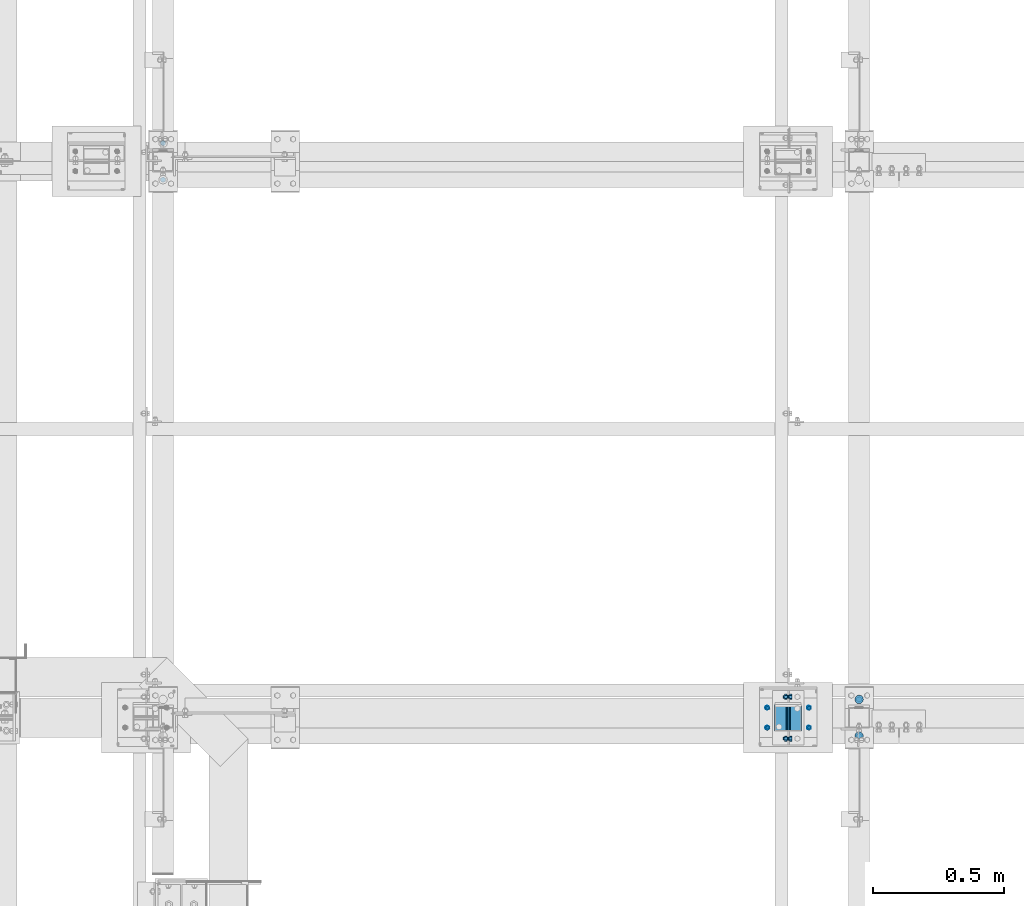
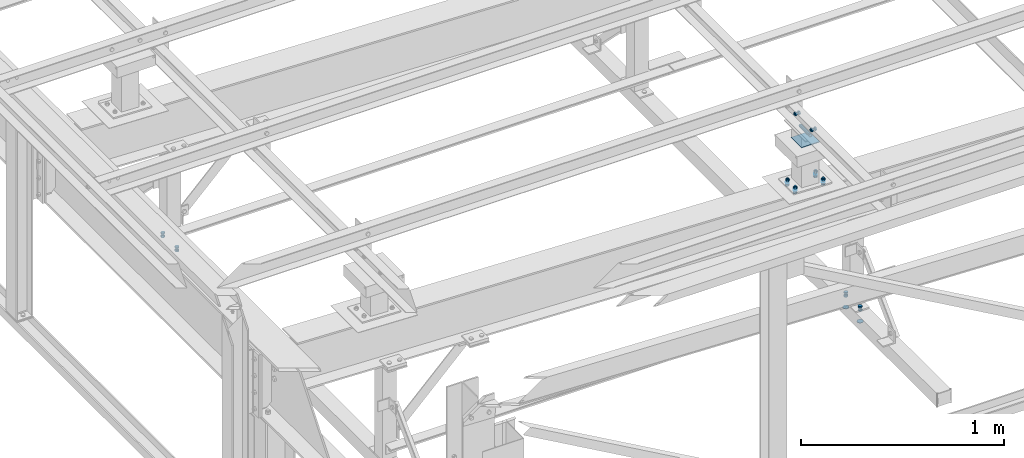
# One storey, part 6 of 3134: 8 mechanical fasteners, 5 elements without a shape of their own.
"""IFC2X3 building model written with IfcOpenShell, lengths in millimetres."""

from ifc_helpers import new_model, si_unit, frame, origin_with_axes, place, context, subcontext, project, spatial, faceted_brep, source, transform, mapped, material, type_object, element, aggregate, save


model = new_model("IFC2X3")

# Units and contexts
model_context = context("Model", 3, precision=1e-05, world=origin_with_axes())
body_context = subcontext(model_context, "Body", "Model", "MODEL_VIEW")
ifc_project = project(units=[si_unit("LENGTHUNIT", "METRE", prefix="MILLI"), si_unit("AREAUNIT", "SQUARE_METRE"), si_unit("VOLUMEUNIT", "CUBIC_METRE"), si_unit("MASSUNIT", "GRAM", prefix="KILO"), si_unit("TIMEUNIT", "SECOND"), si_unit("PLANEANGLEUNIT", "RADIAN"), si_unit("SOLIDANGLEUNIT", "STERADIAN"), si_unit("THERMODYNAMICTEMPERATUREUNIT", "DEGREE_CELSIUS"), si_unit("LUMINOUSINTENSITYUNIT", "LUMEN")], contexts=[model_context])

# Site, building, storey
site_placement = place(None, origin_with_axes())
site = spatial("IfcSite", under=ifc_project, at=site_placement, CompositionType="ELEMENT")
building_placement = place(site_placement, origin_with_axes())
building = spatial("IfcBuilding", under=site, at=building_placement, Name="Undefined", CompositionType="ELEMENT")
storey_placement = place(building_placement, origin_with_axes())
storey = spatial("IfcBuildingStorey", under=building, at=storey_placement, Name="Undefined", CompositionType="ELEMENT", Elevation=0.0)

# Assembly, mechanical fastener
assembly_1_placement = place(storey_placement, origin_with_axes())
assembly_1 = element("IfcElementAssembly", 1, at=assembly_1_placement, inside=storey, AssemblyPlace="NOTDEFINED", PredefinedType="RIGID_FRAME")
ifc_material_1 = material(Name="8.8")
mechanical_fastener_type = type_object("IfcMechanicalFastenerType", Name="Bolt assembly")
shared_shape_1 = source(origin_with_axes(), body_context, "Body", "Brep", [
    faceted_brep([(16.5, -3.0, 0.0), (14.289419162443, -3.0, 8.25000000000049), (8.24999999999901, -3.0, 14.2894191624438), (-1.70995436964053e-12, -3.0, 16.5), (-8.25000000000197, -3.0, 14.2894191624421), (-14.2894191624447, -3.0, 8.24999999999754), (-16.5, -3.0, -3.41990873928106e-12), (-14.2894191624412, -3.0, -8.25000000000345), (-8.24999999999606, -3.0, -14.2894191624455), (5.11154442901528e-12, -3.0, -16.5), (8.25000000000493, -3.0, -14.2894191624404), (14.2894191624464, -3.0, -8.24999999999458), (14.2894191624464, 0.1, -8.24999999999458), (8.25000000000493, 0.1, -14.2894191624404), (5.11154442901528e-12, 0.1, -16.5), (-8.24999999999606, 0.1, -14.2894191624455), (-14.2894191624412, 0.1, -8.25000000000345), (-16.5, 0.1, -3.41990873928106e-12), (-14.2894191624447, 0.1, 8.24999999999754), (-8.25000000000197, 0.1, 14.2894191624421), (-1.70995436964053e-12, 0.1, 16.5), (8.24999999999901, 0.1, 14.2894191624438), (14.289419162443, 0.1, 8.25000000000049), (16.5, 0.1, 0.0)], [[[0, 1, 2, 3, 4, 5, 6, 7, 8, 9, 10, 11]], [[12, 13, 14, 15, 16, 17, 18, 19, 20, 21, 22, 23]], [[0, 23, 22, 1]], [[1, 22, 21, 2]], [[2, 21, 20, 3]], [[3, 20, 19, 4]], [[4, 19, 18, 5]], [[5, 18, 17, 6]], [[6, 17, 16, 7]], [[7, 16, 15, 8]], [[8, 15, 14, 9]], [[9, 14, 13, 10]], [[10, 13, 12, 11]], [[11, 12, 23, 0]]]),
])
mechanical_fastener_1_placement = place(assembly_1_placement, frame((3315.0, 11000.0, 3040.0), z_axis=(1.0, 0.0, 0.0), x_axis=(0.0, -1.0, 0.0)))
mechanical_fastener_1 = element("IfcMechanicalFastener", 2, at=mechanical_fastener_1_placement, type_object=mechanical_fastener_type, material=ifc_material_1, Name="Bolt assembly", NominalDiameter=30.0, NominalLength=3.0, context=body_context, shape_type="MappedRepresentation", body=[
    mapped(shared_shape_1, transform((0.0, 0.0, 0.0))),
    mapped(shared_shape_1, transform((140.0, 0.0, 0.0))),
])

assembly_2_placement = place(storey_placement, origin_with_axes())
assembly_2 = element("IfcElementAssembly", 3, at=assembly_2_placement, inside=storey, AssemblyPlace="NOTDEFINED", PredefinedType="RIGID_FRAME")
shared_shape_2 = source(origin_with_axes(), body_context, "Body", "Brep", [
    faceted_brep([(10.9696551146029, -14.0, 0.0), (5.48482755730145, -14.0, 9.5), (-5.48482755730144, -14.0, 9.5), (-10.9696551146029, -14.0, 1.34339530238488e-15), (-5.48482755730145, -14.0, -9.5), (5.48482755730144, -14.0, -9.50000000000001), (5.48482755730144, -6.0, -9.50000000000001), (-5.48482755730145, -6.0, -9.5), (-10.9696551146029, -6.0, 1.34339530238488e-15), (-5.48482755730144, -6.0, 9.5), (5.48482755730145, -6.0, 9.5), (10.9696551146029, -6.0, 0.0), (6.0, -6.0, 0.0), (5.19615242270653, -6.0, 3.00000000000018), (2.99999999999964, -6.0, 5.19615242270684), (-6.21801588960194e-13, -6.0, 6.0), (-3.00000000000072, -6.0, 5.19615242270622), (-5.19615242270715, -6.0, 2.9999999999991), (-6.0, -6.0, -1.24360317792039e-12), (-5.19615242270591, -6.0, -3.00000000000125), (-2.99999999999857, -6.0, -5.19615242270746), (1.85874342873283e-12, -6.0, -6.0), (3.00000000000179, -6.0, -5.1961524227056), (5.19615242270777, -6.0, -2.99999999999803), (5.19615242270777, 19.0, -2.99999999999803), (3.00000000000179, 19.0, -5.1961524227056), (1.85874342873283e-12, 19.0, -6.0), (-2.99999999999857, 19.0, -5.19615242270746), (-5.19615242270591, 19.0, -3.00000000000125), (-6.0, 19.0, -1.24360317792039e-12), (-5.19615242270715, 19.0, 2.9999999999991), (-3.00000000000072, 19.0, 5.19615242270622), (-6.21801588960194e-13, 19.0, 6.0), (2.99999999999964, 19.0, 5.19615242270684), (5.19615242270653, 19.0, 3.00000000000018), (6.0, 19.0, 0.0), (10.9696551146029, 4.00000000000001, 0.0), (5.48482755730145, 4.00000000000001, 9.5), (-5.48482755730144, 4.00000000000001, 9.5), (-10.9696551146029, 4.00000000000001, 1.34339530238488e-15), (-5.48482755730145, 4.00000000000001, -9.5), (5.48482755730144, 4.00000000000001, -9.50000000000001), (5.48482755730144, 14.0, -9.50000000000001), (-5.48482755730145, 14.0, -9.5), (-10.9696551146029, 14.0, 1.34339530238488e-15), (-5.48482755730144, 14.0, 9.5), (5.48482755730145, 14.0, 9.5), (10.9696551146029, 14.0, 0.0)], [[[0, 1, 2, 3, 4, 5]], [[6, 7, 8, 9, 10, 11]], [[0, 11, 10, 1]], [[1, 10, 9, 2]], [[2, 9, 8, 3]], [[3, 8, 7, 4]], [[4, 7, 6, 5]], [[5, 6, 11, 0]], [[12, 13, 14, 15, 16, 17, 18, 19, 20, 21, 22, 23]], [[24, 25, 26, 27, 28, 29, 30, 31, 32, 33, 34, 35]], [[12, 35, 34, 13]], [[13, 34, 33, 14]], [[14, 33, 32, 15]], [[15, 32, 31, 16]], [[16, 31, 30, 17]], [[17, 30, 29, 18]], [[18, 29, 28, 19]], [[19, 28, 27, 20]], [[20, 27, 26, 21]], [[21, 26, 25, 22]], [[22, 25, 24, 23]], [[23, 24, 35, 12]], [[36, 37, 38, 39, 40, 41]], [[42, 43, 44, 45, 46, 47]], [[36, 47, 46, 37]], [[37, 46, 45, 38]], [[38, 45, 44, 39]], [[39, 44, 43, 40]], [[40, 43, 42, 41]], [[41, 42, 47, 36]]]),
    faceted_brep([(7.0, -0.1, 0.0), (6.06217782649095, -0.1, 3.50000000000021), (3.49999999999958, -0.1, 6.06217782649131), (-7.25435187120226e-13, -0.1, 7.0), (-3.50000000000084, -0.1, 6.06217782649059), (-6.06217782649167, -0.1, 3.49999999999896), (-7.0, -0.1, -1.45087037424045e-12), (-6.06217782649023, -0.1, -3.50000000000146), (-3.49999999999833, -0.1, -6.06217782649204), (2.1685340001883e-12, -0.1, -7.0), (3.50000000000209, -0.1, -6.06217782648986), (6.0621778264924, -0.1, -3.4999999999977), (6.0621778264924, 4.00000000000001, -3.4999999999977), (3.50000000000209, 4.00000000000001, -6.06217782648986), (2.1685340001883e-12, 4.00000000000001, -7.0), (-3.49999999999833, 4.00000000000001, -6.06217782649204), (-6.06217782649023, 4.00000000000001, -3.50000000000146), (-7.0, 4.00000000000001, -1.45087037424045e-12), (-6.06217782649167, 4.00000000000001, 3.49999999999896), (-3.50000000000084, 4.00000000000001, 6.06217782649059), (-7.25435187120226e-13, 4.00000000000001, 7.0), (3.49999999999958, 4.00000000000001, 6.06217782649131), (6.06217782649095, 4.00000000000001, 3.50000000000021), (7.0, 4.00000000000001, 0.0), (7.0, -5.9, 0.0), (6.06217782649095, -5.9, 3.50000000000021), (3.49999999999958, -5.9, 6.06217782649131), (-7.25435187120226e-13, -5.9, 7.0), (-3.50000000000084, -5.9, 6.06217782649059), (-6.06217782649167, -5.9, 3.49999999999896), (-7.0, -5.9, -1.45087037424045e-12), (-6.06217782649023, -5.9, -3.50000000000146), (-3.49999999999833, -5.9, -6.06217782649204), (2.1685340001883e-12, -5.9, -7.0), (3.50000000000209, -5.9, -6.06217782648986), (6.0621778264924, -5.9, -3.4999999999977), (6.0621778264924, 0.0999999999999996, -3.4999999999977), (3.50000000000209, 0.0999999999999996, -6.06217782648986), (2.1685340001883e-12, 0.0999999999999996, -7.0), (-3.49999999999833, 0.0999999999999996, -6.06217782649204), (-6.06217782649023, 0.0999999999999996, -3.50000000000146), (-7.0, 0.0999999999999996, -1.45087037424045e-12), (-6.06217782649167, 0.0999999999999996, 3.49999999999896), (-3.50000000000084, 0.0999999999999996, 6.06217782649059), (-7.25435187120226e-13, 0.0999999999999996, 7.0), (3.49999999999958, 0.0999999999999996, 6.06217782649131), (6.06217782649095, 0.0999999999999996, 3.50000000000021), (7.0, 0.0999999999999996, 0.0)], [[[0, 1, 2, 3, 4, 5, 6, 7, 8, 9, 10, 11]], [[12, 13, 14, 15, 16, 17, 18, 19, 20, 21, 22, 23]], [[0, 23, 22, 1]], [[1, 22, 21, 2]], [[2, 21, 20, 3]], [[3, 20, 19, 4]], [[4, 19, 18, 5]], [[5, 18, 17, 6]], [[6, 17, 16, 7]], [[7, 16, 15, 8]], [[8, 15, 14, 9]], [[9, 14, 13, 10]], [[10, 13, 12, 11]], [[11, 12, 23, 0]], [[24, 25, 26, 27, 28, 29, 30, 31, 32, 33, 34, 35]], [[36, 37, 38, 39, 40, 41, 42, 43, 44, 45, 46, 47]], [[24, 47, 46, 25]], [[25, 46, 45, 26]], [[26, 45, 44, 27]], [[27, 44, 43, 28]], [[28, 43, 42, 29]], [[29, 42, 41, 30]], [[30, 41, 40, 31]], [[31, 40, 39, 32]], [[32, 39, 38, 33]], [[33, 38, 37, 34]], [[34, 37, 36, 35]], [[35, 36, 47, 24]]]),
])
mechanical_fastener_2_placement = place(assembly_2_placement, frame((3043.33, 10850.0, 4300.0), z_axis=(0.0, 0.0, 1.0), x_axis=(0.0, 1.0, 0.0)))
mechanical_fastener_2 = element("IfcMechanicalFastener", 4, at=mechanical_fastener_2_placement, type_object=mechanical_fastener_type, material=ifc_material_1, Name="Bolt assembly", NominalDiameter=12.0, NominalLength=25.0, context=body_context, shape_type="MappedRepresentation", body=[
    mapped(shared_shape_2, transform((0.0, 0.0, 0.0))),
    mapped(shared_shape_2, transform((160.0, 0.0, 0.0))),
])
aggregate(assembly_2, [mechanical_fastener_2])

assembly_3_placement = place(storey_placement, origin_with_axes())
assembly_3 = element("IfcElementAssembly", 5, at=assembly_3_placement, inside=storey, AssemblyPlace="NOTDEFINED", PredefinedType="RIGID_FRAME")
shared_shape_3 = source(origin_with_axes(), body_context, "Body", "Brep", [
    faceted_brep([(10.9696551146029, -16.0, 0.0), (5.48482755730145, -16.0, 9.5), (-5.48482755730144, -16.0, 9.5), (-10.9696551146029, -16.0, 1.34339530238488e-15), (-5.48482755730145, -16.0, -9.5), (5.48482755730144, -16.0, -9.50000000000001), (5.48482755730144, -8.0, -9.50000000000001), (-5.48482755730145, -8.0, -9.5), (-10.9696551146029, -8.0, 1.34339530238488e-15), (-5.48482755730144, -8.0, 9.5), (5.48482755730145, -8.0, 9.5), (10.9696551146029, -8.0, 0.0), (6.0, -8.0, 0.0), (5.19615242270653, -8.0, 3.00000000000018), (2.99999999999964, -8.0, 5.19615242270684), (-6.21801588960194e-13, -8.0, 6.0), (-3.00000000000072, -8.0, 5.19615242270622), (-5.19615242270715, -8.0, 2.9999999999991), (-6.0, -8.0, -1.24360317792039e-12), (-5.19615242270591, -8.0, -3.00000000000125), (-2.99999999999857, -8.0, -5.19615242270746), (1.85874342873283e-12, -8.0, -6.0), (3.00000000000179, -8.0, -5.1961524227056), (5.19615242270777, -8.0, -2.99999999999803), (5.19615242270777, 17.0, -2.99999999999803), (3.00000000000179, 17.0, -5.1961524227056), (1.85874342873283e-12, 17.0, -6.0), (-2.99999999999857, 17.0, -5.19615242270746), (-5.19615242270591, 17.0, -3.00000000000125), (-6.0, 17.0, -1.24360317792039e-12), (-5.19615242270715, 17.0, 2.9999999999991), (-3.00000000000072, 17.0, 5.19615242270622), (-6.21801588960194e-13, 17.0, 6.0), (2.99999999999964, 17.0, 5.19615242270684), (5.19615242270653, 17.0, 3.00000000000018), (6.0, 17.0, 0.0), (10.9696551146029, 3.00000000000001, 0.0), (5.48482755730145, 3.00000000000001, 9.5), (-5.48482755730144, 3.00000000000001, 9.5), (-10.9696551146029, 3.00000000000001, 1.34339530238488e-15), (-5.48482755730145, 3.00000000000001, -9.5), (5.48482755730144, 3.00000000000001, -9.50000000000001), (5.48482755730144, 13.0, -9.50000000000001), (-5.48482755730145, 13.0, -9.5), (-10.9696551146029, 13.0, 1.34339530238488e-15), (-5.48482755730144, 13.0, 9.5), (5.48482755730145, 13.0, 9.5), (10.9696551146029, 13.0, 0.0)], [[[0, 1, 2, 3, 4, 5]], [[6, 7, 8, 9, 10, 11]], [[0, 11, 10, 1]], [[1, 10, 9, 2]], [[2, 9, 8, 3]], [[3, 8, 7, 4]], [[4, 7, 6, 5]], [[5, 6, 11, 0]], [[12, 13, 14, 15, 16, 17, 18, 19, 20, 21, 22, 23]], [[24, 25, 26, 27, 28, 29, 30, 31, 32, 33, 34, 35]], [[12, 35, 34, 13]], [[13, 34, 33, 14]], [[14, 33, 32, 15]], [[15, 32, 31, 16]], [[16, 31, 30, 17]], [[17, 30, 29, 18]], [[18, 29, 28, 19]], [[19, 28, 27, 20]], [[20, 27, 26, 21]], [[21, 26, 25, 22]], [[22, 25, 24, 23]], [[23, 24, 35, 12]], [[36, 37, 38, 39, 40, 41]], [[42, 43, 44, 45, 46, 47]], [[36, 47, 46, 37]], [[37, 46, 45, 38]], [[38, 45, 44, 39]], [[39, 44, 43, 40]], [[40, 43, 42, 41]], [[41, 42, 47, 36]]]),
    faceted_brep([(7.0, -7.9, 0.0), (6.06217782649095, -7.9, 3.50000000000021), (3.49999999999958, -7.9, 6.06217782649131), (-7.25435187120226e-13, -7.9, 7.0), (-3.50000000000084, -7.9, 6.06217782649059), (-6.06217782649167, -7.9, 3.49999999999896), (-7.0, -7.9, -1.45087037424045e-12), (-6.06217782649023, -7.9, -3.50000000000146), (-3.49999999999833, -7.9, -6.06217782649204), (2.1685340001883e-12, -7.9, -7.0), (3.50000000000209, -7.9, -6.06217782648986), (6.0621778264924, -7.9, -3.4999999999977), (6.0621778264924, 0.0999999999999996, -3.4999999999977), (3.50000000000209, 0.0999999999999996, -6.06217782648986), (2.1685340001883e-12, 0.0999999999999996, -7.0), (-3.49999999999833, 0.0999999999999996, -6.06217782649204), (-6.06217782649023, 0.0999999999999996, -3.50000000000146), (-7.0, 0.0999999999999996, -1.45087037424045e-12), (-6.06217782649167, 0.0999999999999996, 3.49999999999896), (-3.50000000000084, 0.0999999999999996, 6.06217782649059), (-7.25435187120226e-13, 0.0999999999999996, 7.0), (3.49999999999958, 0.0999999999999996, 6.06217782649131), (6.06217782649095, 0.0999999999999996, 3.50000000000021), (7.0, 0.0999999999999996, 0.0), (7.0, -0.1, 0.0), (6.06217782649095, -0.1, 3.50000000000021), (3.49999999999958, -0.1, 6.06217782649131), (-7.25435187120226e-13, -0.1, 7.0), (-3.50000000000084, -0.1, 6.06217782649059), (-6.06217782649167, -0.1, 3.49999999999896), (-7.0, -0.1, -1.45087037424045e-12), (-6.06217782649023, -0.1, -3.50000000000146), (-3.49999999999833, -0.1, -6.06217782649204), (2.1685340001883e-12, -0.1, -7.0), (3.50000000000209, -0.1, -6.06217782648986), (6.0621778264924, -0.1, -3.4999999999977), (6.0621778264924, 3.0, -3.4999999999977), (3.50000000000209, 3.0, -6.06217782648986), (2.1685340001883e-12, 3.0, -7.0), (-3.49999999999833, 3.0, -6.06217782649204), (-6.06217782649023, 3.0, -3.50000000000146), (-7.0, 3.0, -1.45087037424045e-12), (-6.06217782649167, 3.0, 3.49999999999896), (-3.50000000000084, 3.0, 6.06217782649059), (-7.25435187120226e-13, 3.0, 7.0), (3.49999999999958, 3.0, 6.06217782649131), (6.06217782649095, 3.0, 3.50000000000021), (7.0, 3.0, 0.0)], [[[0, 1, 2, 3, 4, 5, 6, 7, 8, 9, 10, 11]], [[12, 13, 14, 15, 16, 17, 18, 19, 20, 21, 22, 23]], [[0, 23, 22, 1]], [[1, 22, 21, 2]], [[2, 21, 20, 3]], [[3, 20, 19, 4]], [[4, 19, 18, 5]], [[5, 18, 17, 6]], [[6, 17, 16, 7]], [[7, 16, 15, 8]], [[8, 15, 14, 9]], [[9, 14, 13, 10]], [[10, 13, 12, 11]], [[11, 12, 23, 0]], [[24, 25, 26, 27, 28, 29, 30, 31, 32, 33, 34, 35]], [[36, 37, 38, 39, 40, 41, 42, 43, 44, 45, 46, 47]], [[24, 47, 46, 25]], [[25, 46, 45, 26]], [[26, 45, 44, 27]], [[27, 44, 43, 28]], [[28, 43, 42, 29]], [[29, 42, 41, 30]], [[30, 41, 40, 31]], [[31, 40, 39, 32]], [[32, 39, 38, 33]], [[33, 38, 37, 34]], [[34, 37, 36, 35]], [[35, 36, 47, 24]]]),
])
mechanical_fastener_3_placement = place(assembly_3_placement, frame((650.0, 13130.0, 3120.0), z_axis=(1.0, 0.0, 0.0), x_axis=(0.0, -1.0, 0.0)))
mechanical_fastener_3 = element("IfcMechanicalFastener", 6, at=mechanical_fastener_3_placement, type_object=mechanical_fastener_type, material=ifc_material_1, Name="Bolt assembly", NominalDiameter=12.0, NominalLength=25.0, context=body_context, shape_type="MappedRepresentation", body=[
    mapped(shared_shape_3, transform((0.0, 0.0, 0.0))),
    mapped(shared_shape_3, transform((140.0, 0.0, 0.0))),
])
aggregate(assembly_3, [mechanical_fastener_3])

# Mechanical fastener
mechanical_fastener_4_placement = place(assembly_1_placement, frame((3315.0, 11000.0, 3120.0), z_axis=(1.0, 0.0, 0.0), x_axis=(0.0, -1.0, 0.0)))
mechanical_fastener_4 = element("IfcMechanicalFastener", 7, at=mechanical_fastener_4_placement, type_object=mechanical_fastener_type, material=ifc_material_1, Name="Bolt assembly", NominalDiameter=12.0, NominalLength=25.0, context=body_context, shape_type="MappedRepresentation", body=[
    mapped(shared_shape_3, transform((0.0, 0.0, 0.0))),
    mapped(shared_shape_3, transform((140.0, 0.0, 0.0))),
])

aggregate(assembly_1, [mechanical_fastener_1, mechanical_fastener_4])

# Assembly, mechanical fastener
assembly_4_placement = place(storey_placement, origin_with_axes())
assembly_4 = element("IfcElementAssembly", 8, at=assembly_4_placement, inside=storey, AssemblyPlace="NOTDEFINED", PredefinedType="RIGID_FRAME")
shared_shape_4 = source(origin_with_axes(), body_context, "Body", "Brep", [
    faceted_brep([(10.9696551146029, -4.1972538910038, 0.0), (5.48482755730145, -4.1972538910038, 9.5), (-5.48482755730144, -4.1972538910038, 9.5), (-10.9696551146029, -4.1972538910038, 1.34339530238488e-15), (-5.48482755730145, -4.1972538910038, -9.5), (5.48482755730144, -4.1972538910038, -9.50000000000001), (5.48482755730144, 3.8027461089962, -9.50000000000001), (-5.48482755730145, 3.8027461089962, -9.5), (-10.9696551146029, 3.8027461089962, 1.34339530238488e-15), (-5.48482755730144, 3.8027461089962, 9.5), (5.48482755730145, 3.8027461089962, 9.5), (10.9696551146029, 3.8027461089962, 0.0), (6.0, 3.8027461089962, 0.0), (5.19615242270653, 3.8027461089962, 3.00000000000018), (2.99999999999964, 3.8027461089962, 5.19615242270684), (-6.21801588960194e-13, 3.8027461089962, 6.0), (-3.00000000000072, 3.8027461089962, 5.19615242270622), (-5.19615242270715, 3.8027461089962, 2.9999999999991), (-6.0, 3.8027461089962, -1.24360317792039e-12), (-5.19615242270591, 3.8027461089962, -3.00000000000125), (-2.99999999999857, 3.8027461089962, -5.19615242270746), (1.85874342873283e-12, 3.8027461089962, -6.0), (3.00000000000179, 3.8027461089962, -5.1961524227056), (5.19615242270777, 3.8027461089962, -2.99999999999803), (5.19615242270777, 38.8027461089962, -2.99999999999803), (3.00000000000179, 38.8027461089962, -5.1961524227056), (1.85874342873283e-12, 38.8027461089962, -6.0), (-2.99999999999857, 38.8027461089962, -5.19615242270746), (-5.19615242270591, 38.8027461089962, -3.00000000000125), (-6.0, 38.8027461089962, -1.24360317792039e-12), (-5.19615242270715, 38.8027461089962, 2.9999999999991), (-3.00000000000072, 38.8027461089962, 5.19615242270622), (-6.21801588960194e-13, 38.8027461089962, 6.0), (2.99999999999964, 38.8027461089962, 5.19615242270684), (5.19615242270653, 38.8027461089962, 3.00000000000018), (6.0, 38.8027461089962, 0.0), (10.9696551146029, 23.0139082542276, 0.0), (5.48482755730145, 23.0139082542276, 9.5), (-5.48482755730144, 23.0139082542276, 9.5), (-10.9696551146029, 23.0139082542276, 1.34339530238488e-15), (-5.48482755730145, 23.0139082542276, -9.5), (5.48482755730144, 23.0139082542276, -9.50000000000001), (5.48482755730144, 33.0139082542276, -9.50000000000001), (-5.48482755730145, 33.0139082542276, -9.5), (-10.9696551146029, 33.0139082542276, 1.34339530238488e-15), (-5.48482755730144, 33.0139082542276, 9.5), (5.48482755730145, 33.0139082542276, 9.5), (10.9696551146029, 33.0139082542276, 0.0)], [[[0, 1, 2, 3, 4, 5]], [[6, 7, 8, 9, 10, 11]], [[0, 11, 10, 1]], [[1, 10, 9, 2]], [[2, 9, 8, 3]], [[3, 8, 7, 4]], [[4, 7, 6, 5]], [[5, 6, 11, 0]], [[12, 13, 14, 15, 16, 17, 18, 19, 20, 21, 22, 23]], [[24, 25, 26, 27, 28, 29, 30, 31, 32, 33, 34, 35]], [[12, 35, 34, 13]], [[13, 34, 33, 14]], [[14, 33, 32, 15]], [[15, 32, 31, 16]], [[16, 31, 30, 17]], [[17, 30, 29, 18]], [[18, 29, 28, 19]], [[19, 28, 27, 20]], [[20, 27, 26, 21]], [[21, 26, 25, 22]], [[22, 25, 24, 23]], [[23, 24, 35, 12]], [[36, 37, 38, 39, 40, 41]], [[42, 43, 44, 45, 46, 47]], [[36, 47, 46, 37]], [[37, 46, 45, 38]], [[38, 45, 44, 39]], [[39, 44, 43, 40]], [[40, 43, 42, 41]], [[41, 42, 47, 36]]]),
    faceted_brep([(7.0, 3.9027461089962, 0.0), (6.06217782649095, 3.9027461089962, 3.50000000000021), (3.49999999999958, 3.9027461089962, 6.06217782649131), (-7.25435187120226e-13, 3.9027461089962, 7.0), (-3.50000000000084, 3.9027461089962, 6.06217782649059), (-6.06217782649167, 3.9027461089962, 3.49999999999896), (-7.0, 3.9027461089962, -1.45087037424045e-12), (-6.06217782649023, 3.9027461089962, -3.50000000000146), (-3.49999999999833, 3.9027461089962, -6.06217782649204), (2.1685340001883e-12, 3.9027461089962, -7.0), (3.50000000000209, 3.9027461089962, -6.06217782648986), (6.0621778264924, 3.9027461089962, -3.4999999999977), (6.0621778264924, 13.1027459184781, -3.4999999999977), (3.50000000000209, 13.1027459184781, -6.06217782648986), (2.1685340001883e-12, 13.1027459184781, -7.0), (-3.49999999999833, 13.1027459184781, -6.06217782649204), (-6.06217782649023, 13.1027459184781, -3.50000000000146), (-7.0, 13.1027459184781, -1.45087037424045e-12), (-6.06217782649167, 13.1027459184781, 3.49999999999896), (-3.50000000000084, 13.1027459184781, 6.06217782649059), (-7.25435187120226e-13, 13.1027459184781, 7.0), (3.49999999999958, 13.1027459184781, 6.06217782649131), (6.06217782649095, 13.1027459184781, 3.50000000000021), (7.0, 13.1027459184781, 0.0), (7.0, 14.9139082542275, 0.0), (6.06217782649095, 14.9139082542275, 3.50000000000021), (3.49999999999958, 14.9139082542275, 6.06217782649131), (-7.25435187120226e-13, 14.9139082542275, 7.0), (-3.50000000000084, 14.9139082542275, 6.06217782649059), (-6.06217782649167, 14.9139082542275, 3.49999999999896), (-7.0, 14.9139082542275, -1.45087037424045e-12), (-6.06217782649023, 14.9139082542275, -3.50000000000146), (-3.49999999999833, 14.9139082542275, -6.06217782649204), (2.1685340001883e-12, 14.9139082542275, -7.0), (3.50000000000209, 14.9139082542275, -6.06217782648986), (6.0621778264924, 14.9139082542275, -3.4999999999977), (6.0621778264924, 23.0139082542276, -3.4999999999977), (3.50000000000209, 23.0139082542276, -6.06217782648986), (2.1685340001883e-12, 23.0139082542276, -7.0), (-3.49999999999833, 23.0139082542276, -6.06217782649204), (-6.06217782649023, 23.0139082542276, -3.50000000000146), (-7.0, 23.0139082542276, -1.45087037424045e-12), (-6.06217782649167, 23.0139082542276, 3.49999999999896), (-3.50000000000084, 23.0139082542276, 6.06217782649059), (-7.25435187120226e-13, 23.0139082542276, 7.0), (3.49999999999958, 23.0139082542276, 6.06217782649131), (6.06217782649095, 23.0139082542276, 3.50000000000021), (7.0, 23.0139082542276, 0.0)], [[[0, 1, 2, 3, 4, 5, 6, 7, 8, 9, 10, 11]], [[12, 13, 14, 15, 16, 17, 18, 19, 20, 21, 22, 23]], [[0, 23, 22, 1]], [[1, 22, 21, 2]], [[2, 21, 20, 3]], [[3, 20, 19, 4]], [[4, 19, 18, 5]], [[5, 18, 17, 6]], [[6, 17, 16, 7]], [[7, 16, 15, 8]], [[8, 15, 14, 9]], [[9, 14, 13, 10]], [[10, 13, 12, 11]], [[11, 12, 23, 0]], [[24, 25, 26, 27, 28, 29, 30, 31, 32, 33, 34, 35]], [[36, 37, 38, 39, 40, 41, 42, 43, 44, 45, 46, 47]], [[24, 47, 46, 25]], [[25, 46, 45, 26]], [[26, 45, 44, 27]], [[27, 44, 43, 28]], [[28, 43, 42, 29]], [[29, 42, 41, 30]], [[30, 41, 40, 31]], [[31, 40, 39, 32]], [[32, 39, 38, 33]], [[33, 38, 37, 34]], [[34, 37, 36, 35]], [[35, 36, 47, 24]]]),
])
mechanical_fastener_5_placement = place(assembly_4_placement, frame((3042.52318655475, 10967.9999999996, 3920.50000668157), z_axis=(-0.999387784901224, 0.0, 0.0349865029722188), x_axis=(0.0, -1.0, 0.0)))
mechanical_fastener_5 = element("IfcMechanicalFastener", 9, at=mechanical_fastener_5_placement, type_object=mechanical_fastener_type, material=ifc_material_1, Name="Bolt assembly", NominalDiameter=12.0, NominalLength=35.0, context=body_context, shape_type="MappedRepresentation", body=[
    mapped(shared_shape_4, transform((0.0, -5.32963895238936e-10, -79.9999999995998))),
    mapped(shared_shape_4, transform((76.0, -5.32963895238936e-10, -79.9999999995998))),
    mapped(shared_shape_4, transform((0.0, 5.3114490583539e-10, 79.9999999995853))),
    mapped(shared_shape_4, transform((76.0, 5.3114490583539e-10, 79.9999999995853))),
])

assembly_5_placement = place(storey_placement, origin_with_axes())
assembly_5 = element("IfcElementAssembly", 10, at=assembly_5_placement, inside=storey, AssemblyPlace="NOTDEFINED", PredefinedType="RIGID_FRAME")
shared_shape_5 = source(origin_with_axes(), body_context, "Body", "Brep", [
    faceted_brep([(7.0, 13.0000253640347, 0.0), (6.06217782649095, 13.0000253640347, 3.50000000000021), (3.49999999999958, 13.0000253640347, 6.06217782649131), (-7.25435187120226e-13, 13.0000253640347, 7.0), (-3.50000000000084, 13.0000253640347, 6.06217782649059), (-6.06217782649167, 13.0000253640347, 3.49999999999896), (-7.0, 13.0000253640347, -1.45087037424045e-12), (-6.06217782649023, 13.0000253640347, -3.50000000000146), (-3.49999999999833, 13.0000253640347, -6.06217782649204), (2.1685340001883e-12, 13.0000253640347, -7.0), (3.50000000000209, 13.0000253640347, -6.06217782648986), (6.0621778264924, 13.0000253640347, -3.4999999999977), (6.0621778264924, 15.0999999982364, -3.4999999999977), (3.50000000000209, 15.0999999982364, -6.06217782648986), (2.1685340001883e-12, 15.0999999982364, -7.0), (-3.49999999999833, 15.0999999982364, -6.06217782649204), (-6.06217782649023, 15.0999999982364, -3.50000000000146), (-7.0, 15.0999999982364, -1.45087037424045e-12), (-6.06217782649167, 15.0999999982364, 3.49999999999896), (-3.50000000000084, 15.0999999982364, 6.06217782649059), (-7.25435187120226e-13, 15.0999999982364, 7.0), (3.49999999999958, 15.0999999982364, 6.06217782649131), (6.06217782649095, 15.0999999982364, 3.50000000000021), (7.0, 15.0999999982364, 0.0)], [[[0, 1, 2, 3, 4, 5, 6, 7, 8, 9, 10, 11]], [[12, 13, 14, 15, 16, 17, 18, 19, 20, 21, 22, 23]], [[0, 23, 22, 1]], [[1, 22, 21, 2]], [[2, 21, 20, 3]], [[3, 20, 19, 4]], [[4, 19, 18, 5]], [[5, 18, 17, 6]], [[6, 17, 16, 7]], [[7, 16, 15, 8]], [[8, 15, 14, 9]], [[9, 14, 13, 10]], [[10, 13, 12, 11]], [[11, 12, 23, 0]]]),
])
mechanical_fastener_6_placement = place(assembly_5_placement, frame((3042.52318655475, 10967.9999999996, 3920.50000668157), z_axis=(-0.999387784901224, 0.0, 0.0349865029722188), x_axis=(0.0, -1.0, 0.0)))
mechanical_fastener_6 = element("IfcMechanicalFastener", 11, at=mechanical_fastener_6_placement, type_object=mechanical_fastener_type, material=ifc_material_1, Name="Bolt assembly", NominalDiameter=12.0, NominalLength=2.0, context=body_context, shape_type="MappedRepresentation", body=[
    mapped(shared_shape_5, transform((0.0, -5.32963895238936e-10, -79.9999999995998))),
    mapped(shared_shape_5, transform((76.0, -5.32963895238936e-10, -79.9999999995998))),
    mapped(shared_shape_5, transform((0.0, 5.3114490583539e-10, 79.9999999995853))),
    mapped(shared_shape_5, transform((76.0, 5.3114490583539e-10, 79.9999999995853))),
])
aggregate(assembly_5, [mechanical_fastener_6])

# Mechanical fastener
shared_shape_6 = source(origin_with_axes(), body_context, "Body", "Brep", [
    faceted_brep([(9.0, -50.0, 0.0), (7.79422863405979, -50.0, 4.50000000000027), (4.49999999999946, -50.0, 7.79422863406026), (-9.3270238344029e-13, -50.0, 9.0), (-4.50000000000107, -50.0, 7.79422863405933), (-7.79422863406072, -50.0, 4.49999999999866), (-9.0, -50.0, -1.86540476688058e-12), (-7.79422863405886, -50.0, -4.50000000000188), (-4.49999999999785, -50.0, -7.79422863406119), (2.78811514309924e-12, -50.0, -9.0), (4.50000000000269, -50.0, -7.7942286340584), (7.79422863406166, -50.0, -4.49999999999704), (7.79422863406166, 50.1, -4.49999999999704), (4.50000000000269, 50.1, -7.7942286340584), (2.78811514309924e-12, 50.1, -9.0), (-4.49999999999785, 50.1, -7.79422863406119), (-7.79422863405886, 50.1, -4.50000000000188), (-9.0, 50.1, -1.86540476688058e-12), (-7.79422863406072, 50.1, 4.49999999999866), (-4.50000000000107, 50.1, 7.79422863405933), (-9.3270238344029e-13, 50.1, 9.0), (4.49999999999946, 50.1, 7.79422863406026), (7.79422863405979, 50.1, 4.50000000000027), (9.0, 50.1, 0.0)], [[[0, 1, 2, 3, 4, 5, 6, 7, 8, 9, 10, 11]], [[12, 13, 14, 15, 16, 17, 18, 19, 20, 21, 22, 23]], [[0, 23, 22, 1]], [[1, 22, 21, 2]], [[2, 21, 20, 3]], [[3, 20, 19, 4]], [[4, 19, 18, 5]], [[5, 18, 17, 6]], [[6, 17, 16, 7]], [[7, 16, 15, 8]], [[8, 15, 14, 9]], [[9, 14, 13, 10]], [[10, 13, 12, 11]], [[11, 12, 23, 0]]]),
])
mechanical_fastener_7_placement = place(assembly_4_placement, frame((3043.33, 10930.0, 4245.0), z_axis=(-1.0, 0.0, 0.0), x_axis=(0.0, 0.0, 1.0)))
mechanical_fastener_7 = element("IfcMechanicalFastener", 12, at=mechanical_fastener_7_placement, type_object=mechanical_fastener_type, material=ifc_material_1, Name="Bolt assembly", NominalDiameter=16.0, NominalLength=100.0, context=body_context, shape_type="MappedRepresentation", body=[
    mapped(shared_shape_6, transform((0.0, 0.0, 0.0))),
])

ifc_material_2 = material(Name="6.8")
shared_shape_7 = source(origin_with_axes(), body_context, "Body", "Brep", [
    faceted_brep([(51.5, 1.36424205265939e-12, 50.0), (51.3858192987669, 1.36424205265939e-12, 50.5740251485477), (51.0606601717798, 1.36424205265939e-12, 51.0606601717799), (50.5740251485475, 1.36424205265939e-12, 51.385819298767), (-50.0000000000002, 1.36424205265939e-12, 51.5), (-50.7500000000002, 1.36424205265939e-12, 51.2990381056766), (-51.2990381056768, 1.36424205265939e-12, 50.7499999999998), (-51.5, 1.36424205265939e-12, 49.9999999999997), (-51.5, 1.36424205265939e-12, -50.0000000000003), (-51.2990381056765, 1.36424205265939e-12, -50.7500000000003), (-50.7499999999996, 1.36424205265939e-12, -51.2990381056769), (-49.9999999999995, 1.36424205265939e-12, -51.5), (50.0000000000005, 1.36424205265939e-12, -51.5), (50.7500000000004, 1.36424205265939e-12, -51.2990381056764), (51.2990381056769, 1.36424205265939e-12, -50.7499999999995), (51.5, 1.36424205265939e-12, -49.9999999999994), (51.5, 5.10000000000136, -49.9999999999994), (51.2990381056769, 5.10000000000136, -50.7499999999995), (50.7500000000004, 5.10000000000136, -51.2990381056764), (50.0000000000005, 5.10000000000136, -51.5), (-49.9999999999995, 5.10000000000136, -51.5), (-50.7499999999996, 5.10000000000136, -51.2990381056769), (-51.2990381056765, 5.10000000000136, -50.7500000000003), (-51.5, 5.10000000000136, -50.0000000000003), (-51.5, 5.10000000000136, 49.9999999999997), (-51.2990381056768, 5.10000000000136, 50.7499999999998), (-50.7500000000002, 5.10000000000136, 51.2990381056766), (-50.0000000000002, 5.10000000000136, 51.5), (50.5740251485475, 5.10000000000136, 51.385819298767), (51.0606601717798, 5.10000000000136, 51.0606601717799), (51.3858192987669, 5.10000000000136, 50.5740251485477), (51.5, 5.10000000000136, 50.0)], [[[0, 1, 2, 3, 4, 5, 6, 7, 8, 9, 10, 11, 12, 13, 14, 15]], [[16, 17, 18, 19, 20, 21, 22, 23, 24, 25, 26, 27, 28, 29, 30, 31]], [[0, 31, 30, 1]], [[1, 30, 29, 2]], [[2, 29, 28, 3]], [[3, 28, 27, 4]], [[4, 27, 26, 5]], [[5, 26, 25, 6]], [[6, 25, 24, 7]], [[7, 24, 23, 8]], [[8, 23, 22, 9]], [[9, 22, 21, 10]], [[10, 21, 20, 11]], [[11, 20, 19, 12]], [[12, 19, 18, 13]], [[13, 18, 17, 14]], [[14, 17, 16, 15]], [[15, 16, 31, 0]]]),
])
mechanical_fastener_8_placement = place(assembly_4_placement, frame((3043.33, 10930.0, 4190.29), z_axis=(0.0, -1.0, 0.0), x_axis=(-1.0, 0.0, 0.0)))
mechanical_fastener_8 = element("IfcMechanicalFastener", 13, at=mechanical_fastener_8_placement, type_object=mechanical_fastener_type, material=ifc_material_2, Name="Bolt assembly", NominalDiameter=10.0, NominalLength=5.0, context=body_context, shape_type="MappedRepresentation", body=[
    mapped(shared_shape_7, transform((0.0, 0.0, 0.0))),
])

aggregate(assembly_4, [mechanical_fastener_8, mechanical_fastener_5, mechanical_fastener_7])

save(model, "model.ifc")
